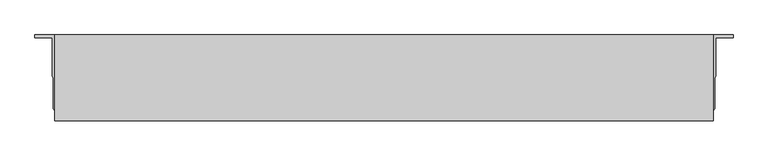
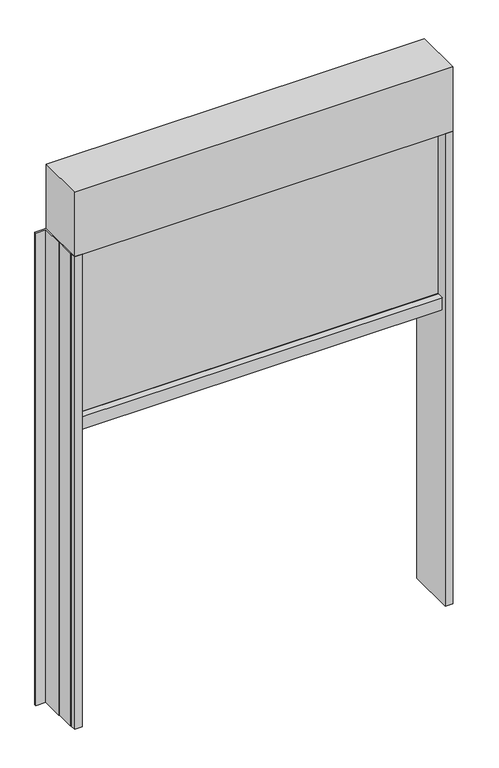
"""IFC4 building model written with IfcOpenShell, lengths in millimetres: proxy geometry, Renson_Fixscreen_Minimal_Single : Recessed - Front of the window - Large - Access downwards - Fabric away from the window."""

from ifc_helpers import new_model, si_unit, point, frame, frame_2d, origin, origin_with_axes, place, context, project, spatial, polyline, circle_curve, trimmed, segment, composite_curve, outline, extrude, source, transform, mapped, element, save


def generic_models_f3f074a6(model_context):
    return source(origin(), model_context, "Body", "SweptSolid", [
        extrude(outline(composite_curve([segment(polyline([(618.4393687, 820.0), (577.9394721, 820.0), (577.9394721, 854.1156826), (595.0635816, 855.0000198)]), True, "CONTINUOUS"), segment(trimmed(circle_curve(frame_2d((595.0893687, 854.5006852)), 0.5), [point((595.0635816, 855.0000198))], [point((595.5893687, 854.5006852))], False, "CARTESIAN"), True, "CONTINUOUS"), segment(polyline([(595.5893687, 854.5006852), (595.5893687, 853.5367989), (594.3242303, 853.5367989), (595.0645339, 849.0119223)]), True, "CONTINUOUS"), segment(trimmed(circle_curve(frame_2d((555.5893687, 842.5534911)), 40.0), [point((595.0645339, 849.0119223))], [point((595.5893687, 842.5534911))], False, "CARTESIAN"), True, "CONTINUOUS"), segment(polyline([(595.5893687, 842.5534911), (595.5893687, 834.5006852)]), True, "CONTINUOUS"), segment(trimmed(circle_curve(frame_2d((597.5893687, 834.5006852)), 2.0), [point((595.5893687, 834.5006852))], [point((597.5893687, 832.5006852))], True, "CARTESIAN"), True, "CONTINUOUS"), segment(polyline([(597.5893687, 832.5006852), (599.2893687, 832.5006852)]), True, "CONTINUOUS"), segment(trimmed(circle_curve(frame_2d((599.2893687, 834.5006852)), 2.0), [point((599.2893687, 832.5006852))], [point((601.2893687, 834.5006852))], True, "CARTESIAN"), True, "CONTINUOUS"), segment(polyline([(601.2893687, 834.5006852), (601.2893687, 842.5534911)]), True, "CONTINUOUS"), segment(trimmed(circle_curve(frame_2d((641.2893687, 842.5534911)), 40.0), [point((601.2893687, 842.5534911))], [point((601.8142035, 849.0119223))], False, "CARTESIAN"), True, "CONTINUOUS"), segment(polyline([(601.8142035, 849.0119223), (602.554507, 853.5367989), (601.2893687, 853.5367989), (601.2893687, 854.5006852)]), True, "CONTINUOUS"), segment(trimmed(circle_curve(frame_2d((601.7893687, 854.5006852)), 0.5), [point((601.2893687, 854.5006852))], [point((601.8159319, 854.9999791))], False, "CARTESIAN"), True, "CONTINUOUS"), segment(polyline([(601.8159319, 854.9999791), (618.4393687, 854.1156826), (618.4393687, 820.0)]), True, "CONTINUOUS")], self_intersect=False)), frame((-480.0, 0.0, 0.0), z_axis=(1.0, 0.0, 0.0), x_axis=(0.0, 1.0, 0.0)), (0.0, 0.0, 1.0), 960.0),
        extrude(outline(polyline([(-480.0, 599.9393687), (480.0, 599.9393687), (480.0, 596.9393687), (-480.0, 596.9393687), (-480.0, 599.9393687)])), frame((0.0, 0.0, 832.5006852), z_axis=(0.0, 0.0, 1.0), x_axis=(1.0, 0.0, 0.0)), (0.0, 0.0, 1.0), 487.4993148),
        extrude(outline(polyline([(480.0, 563.5959909), (480.0, 693.5959909), (530.0, 693.5959909), (530.0, 689.6512978), (503.5, 689.6512978), (503.5, 631.1902044), (502.0, 628.8617773), (502.0, 581.1602044), (500.0, 578.3317773), (500.0, 563.5959909), (480.0, 563.5959909)])), origin_with_axes(), (0.0, 0.0, 1.0), 1320.0),
        extrude(outline(polyline([(-480.0, 563.5959909), (-500.0, 563.5959909), (-500.0, 578.3317773), (-502.0, 581.1602044), (-502.0, 628.8617773), (-503.5, 631.1902044), (-503.5, 689.6512978), (-530.0, 689.6512978), (-530.0, 693.5959909), (-480.0, 693.5959909), (-480.0, 563.5959909)])), origin_with_axes(), (0.0, 0.0, 1.0), 1320.0),
        extrude(outline(polyline([(-500.0, 563.5959909), (-500.0, 693.5959909), (500.0, 693.5959909), (500.0, 563.5959909), (-500.0, 563.5959909)])), frame((0.0, 0.0, 1320.0), z_axis=(0.0, 0.0, 1.0), x_axis=(1.0, 0.0, 0.0)), (0.0, 0.0, 1.0), 180.0),
    ])


if __name__ == "__main__":
    model = new_model("IFC4")
    model_context = context("Model", 3, world=origin())
    ifc_project = project(units=[si_unit("LENGTHUNIT", "METRE", prefix="MILLI")], contexts=[model_context])
    site = spatial("IfcSite", under=ifc_project)
    building = spatial("IfcBuilding", under=site)
    placement = place(None, origin())
    generic_models_shape = generic_models_f3f074a6(model_context)
    element("IfcBuildingElementProxy", 1, Name="Renson_Fixscreen_Minimal_Single : Recessed - Front of the window - Large - Access downwards - Fabric away from the window", ObjectType="Renson_Fixscreen_Minimal_Single : Recessed - Front of the window - Large - Access downwards - Fabric away from the window", at=placement, inside=building, context=model_context, shape_type="MappedRepresentation", body=[
        mapped(generic_models_shape, transform((0.0, 0.0, 0.0), x_axis=(1.0, 0.0, 0.0), y_axis=(0.0, 1.0, 0.0), z_axis=(0.0, 0.0, 1.0))),
    ])
    save(model, "model.ifc")
